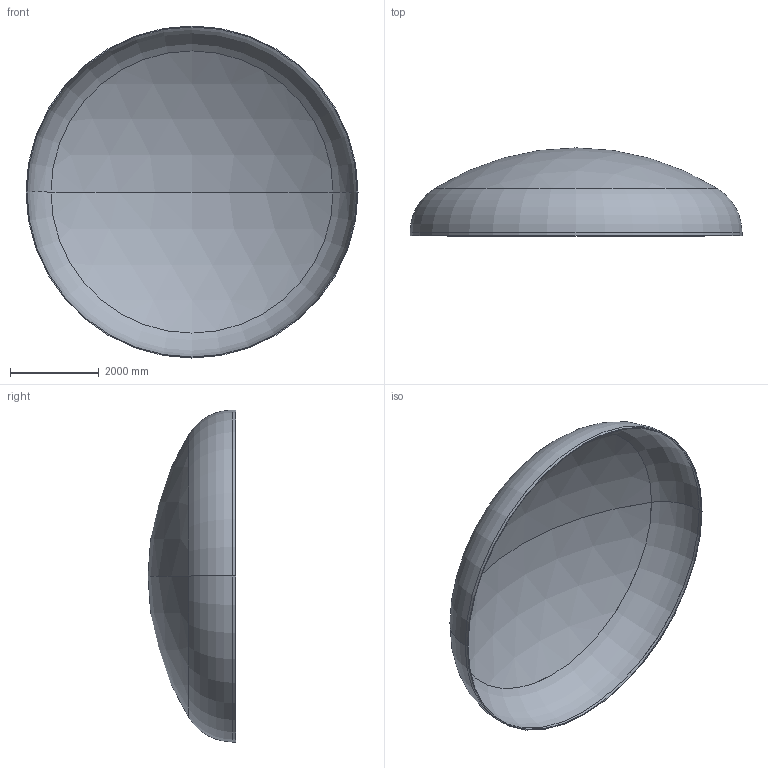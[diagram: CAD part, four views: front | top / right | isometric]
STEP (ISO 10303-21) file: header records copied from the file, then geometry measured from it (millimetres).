
FILE_DESCRIPTION (( 'STEP AP203' ), '1' );
FILE_NAME ('DIN 28013 Korbbogenform_-_Boden DIN 28013 - 7500 x 70 - I - s=21.step', '2016-07-04T10:52:10', ( '' ), ( '' ), 'SwSTEP 2.0', 'SolidWorks 2013', '' );
FILE_SCHEMA (( 'CONFIG_CONTROL_DESIGN' ));
Length unit declared in the file: millimetre
Products named in the file (1): DIN 28013 Korbbogenform_-_Boden DIN 28013 - 7500 x 70 - I - s=21
Bounding box: 7500 x 1986.3 x 7500 mm (x, y, z)
Volume: 1314808865.2 mm3; surface area: 125714179.9 mm2
Topology: 1 solids, 1 shells, 13 faces, 24 edges, 14 vertices
Faces by surface type: torus 4, cylinder 4, sphere 4, plane 1
Entity records: 407 total; most frequent: DIRECTION 72, CARTESIAN_POINT 52, ORIENTED_EDGE 48, AXIS2_PLACEMENT_3D 34, EDGE_CURVE 24, CIRCLE 20, EDGE_LOOP 14, VERTEX_POINT 14
